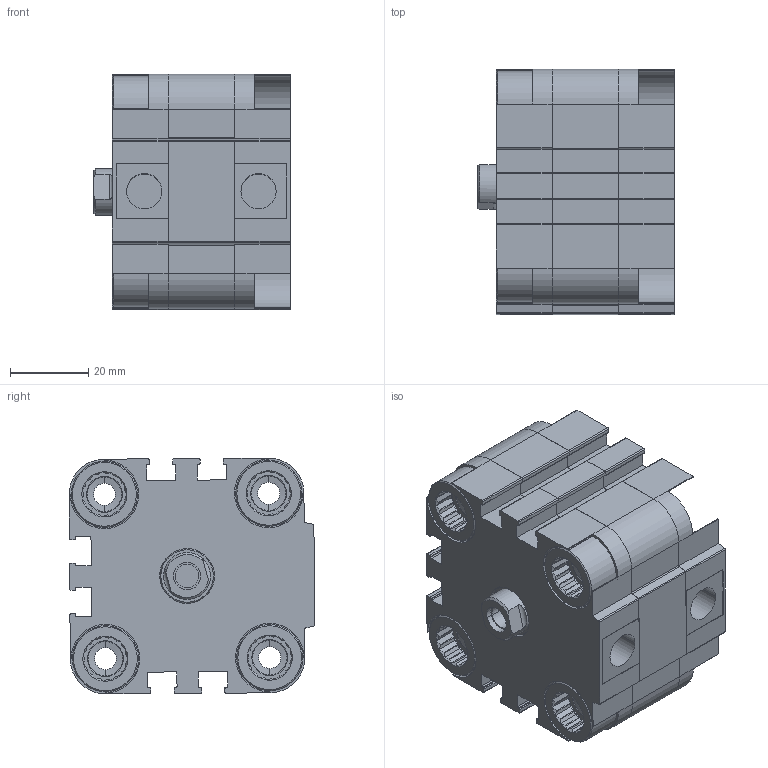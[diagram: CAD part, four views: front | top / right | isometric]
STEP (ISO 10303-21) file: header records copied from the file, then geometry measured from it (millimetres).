
FILE_DESCRIPTION (( 'STEP AP203' ), '1' );
FILE_NAME ('ADVU40X0-CYLINDER.STEP', '2016-03-10T13:57:20', ( 'user' ), ( '' ), 'SwSTEP 2.0', 'SolidWorks 2013', '' );
FILE_SCHEMA (( 'CONFIG_CONTROL_DESIGN' ));
Length unit declared in the file: millimetre
Products named in the file (13): ADVU 40 烰 KAPAK; ADVU 40 諲 KAPAK KE荅; ADVU 40  O-R嵣G; ADVU 40 YATAKLAMA BANDI; ADVU 40 ARKA KAPAK; ADVU 40X0 BORU; ADVU 40 CIVATA; ADVU 40X0 M尳; ADVU 40 KAPAK O-R嵣G; ADVU40X0-CYLINDER; ADVU 40 KEキ; ADVU 40 ORTA PÝSTON; ADVU 40 ORTA PÝSTON O-RÝNG
Assembly tree (15 placements, depth 2):
  ADVU40X0-CYLINDER
    ADVU 40  O-R嵣G
    ADVU 40 ARKA KAPAK
    ADVU 40 CIVATA  x4
    ADVU 40 KAPAK O-R嵣G
    ADVU 40 KEキ
    ADVU 40 ORTA PÝSTON
    ADVU 40 ORTA PÝSTON O-RÝNG
    ADVU 40 烰 KAPAK
    ADVU 40 諲 KAPAK KE荅
    ADVU 40 YATAKLAMA BANDI
    ADVU 40X0 BORU
    ADVU 40X0 M尳
Bounding box: 50.31 x 62.77 x 60.26 mm (x, y, z)
Volume: 128410.6 mm3; surface area: 59355.3 mm2
Topology: 35 solids, 35 shells, 1212 faces, 3003 edges, 1888 vertices
Faces by surface type: plane 596, cylinder 440, cone 156, bspline 20
Entity records: 29904 total; most frequent: CARTESIAN_POINT 5662, DIRECTION 5014, ORIENTED_EDGE 4674, EDGE_CURVE 2337, AXIS2_PLACEMENT_3D 1886, VERTEX_POINT 1510, VECTOR 1242, LINE 1242
